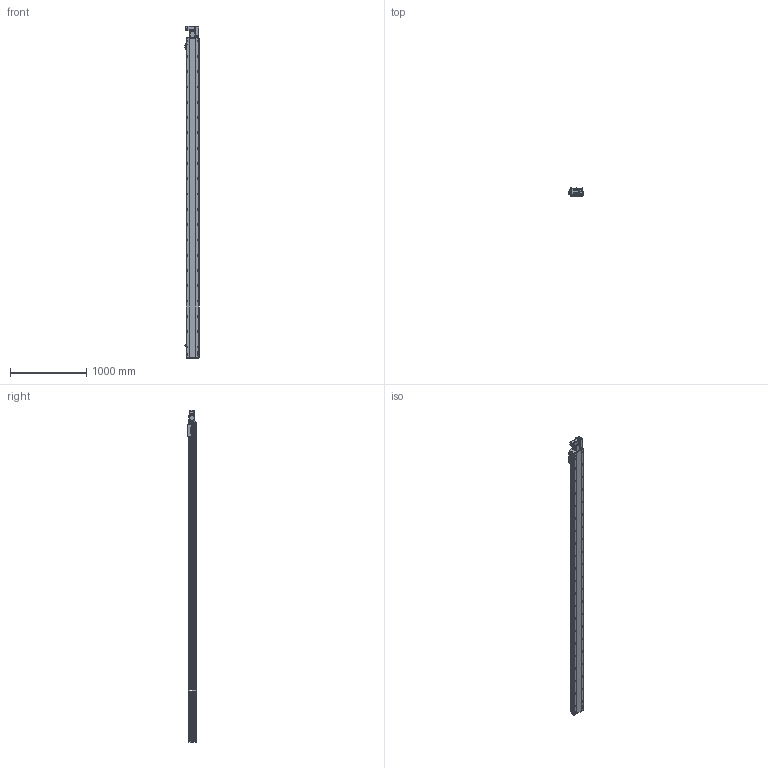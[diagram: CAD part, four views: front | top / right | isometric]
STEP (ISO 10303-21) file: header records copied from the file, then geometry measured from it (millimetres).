
FILE_DESCRIPTION (( 'STEP AP214' ), '1' );
FILE_NAME ('RTB17S-XX-3900-R-M40-C4.STEP', '2025-12-11T08:05:43', ( '' ), ( '' ), 'SwSTEP 2.0', 'SolidWorks 2018', '' );
FILE_SCHEMA (( 'AUTOMOTIVE_DESIGN' ));
Length unit declared in the file: millimetre
Products named in the file (14): RTB17S-L-014-T20--々湍釱^RTB17S-R-々湍釱蚾饜-400W_RTB17S-XX-XX-R-M40-C4; RTB17-R-011菁釱^RTB17S-XX-XX-R-M40-C4; RTB14-L-017P^RTB17S-R-々湍釱蚾饜-400W_RTB17S-XX-XX-R-M40-C4; RTB17S-XX-3900-R-M40-C4; RTB14-L-008-M20--萇儂啣^RTB17S-R-々湍釱蚾饜-400W_RTB17S-XX-XX-R-M40-C4; RTB14-L-005P--轴承塑胶压盖^RTB17S-R-皮带座装配-400W_RTB17S-XX-XX-R-M40-C4; RTH13-BL-012覜茼え俋离^RTB17S-XX-XX-R-M40-C4; RTB14-L-018P^RTB17S-R-々湍釱蚾饜-400W_RTB17S-XX-XX-R-M40-C4; RTB17S-R-々湍釱蚾饜-400W^RTB17S-XX-XX-R-M40-C4; OMRON EE-SX672 传感器^RTB17S-XX-XX-R-M40-C4; 400W侜督萇儂^RTB17S-XX-XX-R-M40-C4; RTB17S-L-004佪裝蹟譫蟀諉釱^RTB17S-XX-XX-R-M40-C4; RTB17S-L-007奻裔^RTB17S-XX-XX-R-M40-C4; RTB17S-L-001耜醱啣^RTB17S-XX-XX-R-M40-C4
Assembly tree (16 placements, depth 3):
  RTB17S-XX-3900-R-M40-C4
    RTB17-R-011菁釱^RTB17S-XX-XX-R-M40-C4
    RTB17S-L-007奻裔^RTB17S-XX-XX-R-M40-C4
    OMRON EE-SX672 传感器^RTB17S-XX-XX-R-M40-C4  x3
    RTB17S-L-001耜醱啣^RTB17S-XX-XX-R-M40-C4
    400W侜督萇儂^RTB17S-XX-XX-R-M40-C4
    RTB17S-L-004佪裝蹟譫蟀諉釱^RTB17S-XX-XX-R-M40-C4
    RTH13-BL-012覜茼え俋离^RTB17S-XX-XX-R-M40-C4
    RTB17S-R-々湍釱蚾饜-400W^RTB17S-XX-XX-R-M40-C4
      RTB17S-L-014-T20--々湍釱^RTB17S-R-々湍釱蚾饜-400W_RTB17S-XX-XX-R-M40-C4
      RTB14-L-005P--轴承塑胶压盖^RTB17S-R-皮带座装配-400W_RTB17S-XX-XX-R-M40-C4
      RTB14-L-008-M20--萇儂啣^RTB17S-R-々湍釱蚾饜-400W_RTB17S-XX-XX-R-M40-C4
      RTB14-L-017P^RTB17S-R-々湍釱蚾饜-400W_RTB17S-XX-XX-R-M40-C4  x2
      RTB14-L-018P^RTB17S-R-々湍釱蚾饜-400W_RTB17S-XX-XX-R-M40-C4
Bounding box: 183.5 x 108 x 4341 mm (x, y, z)
Volume: 36020967.6 mm3; surface area: 4077909.2 mm2
Topology: 15 solids, 15 shells, 2445 faces, 6897 edges, 4509 vertices
Faces by surface type: plane 1098, cylinder 899, bspline 301, cone 139, torus 8
Entity records: 74153 total; most frequent: CARTESIAN_POINT 21302, ORIENTED_EDGE 10638, DIRECTION 9746, EDGE_CURVE 5319, VERTEX_POINT 3497, AXIS2_PLACEMENT_3D 3427, LINE 2892, VECTOR 2892
